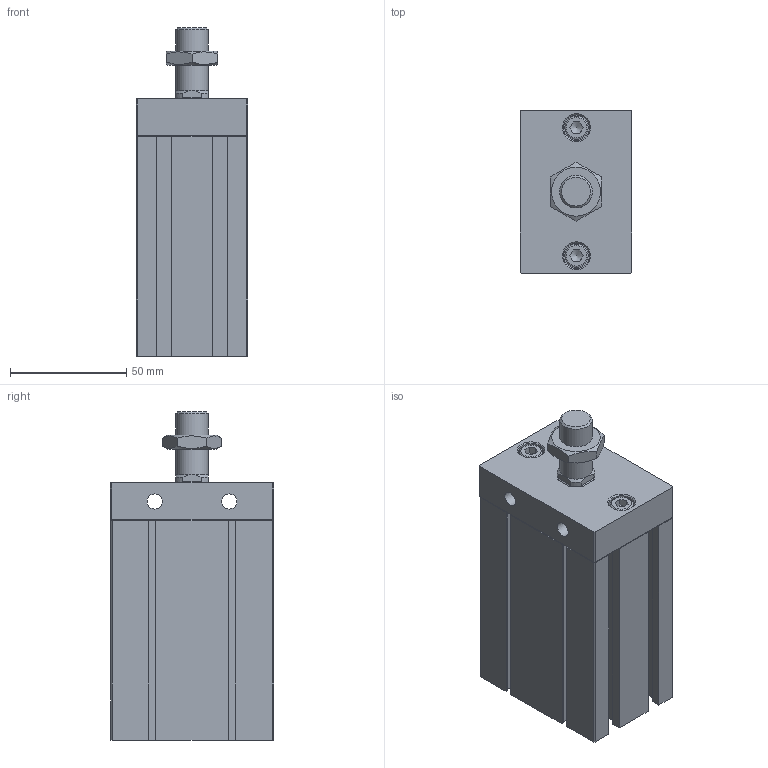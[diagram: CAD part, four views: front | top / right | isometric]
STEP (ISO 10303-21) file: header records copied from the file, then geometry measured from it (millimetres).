
FILE_DESCRIPTION((''),'2;1');
FILE_NAME('I:\3D電子目錄\氣缸\ND\ND\ND40-B\ND40x60-B.stp','2007-07-30T19:23:31',('Administrator'),(''),'Autodesk Inventor 11','Autodesk Inventor 11','');
FILE_SCHEMA(('AUTOMOTIVE_DESIGN { 1 0 10303 214 1 1 1 1 }'));
Length unit declared in the file: millimetre
Products named in the file (4): ND40-B; R 形環 42; ISO 4762 M6 x 20
Assembly tree (4 placements, depth 2):
  ND40-B
    ND40-B
    R 形環 42
    ISO 4762 M6 x 20  x2
Bounding box: 48 x 70.1 x 141 mm (x, y, z)
Volume: 339532.3 mm3; surface area: 54720.1 mm2
Topology: 5 solids, 5 shells, 207 faces, 501 edges, 321 vertices
Faces by surface type: plane 143, cylinder 27, cone 20, bspline 14, torus 3
Full cylindrical faces by diameter (mm): 1.9 x2, 2.2 x2, 6 x2, 6.5 x2, 10 x2, 11 x2, 14 x2, 29 x1, 42 x1, 44.5 x1
Entity records: 5567 total; most frequent: CARTESIAN_POINT 1155, DIRECTION 864, ORIENTED_EDGE 848, EDGE_CURVE 424, VECTOR 306, LINE 306, VERTEX_POINT 296, AXIS2_PLACEMENT_3D 279
